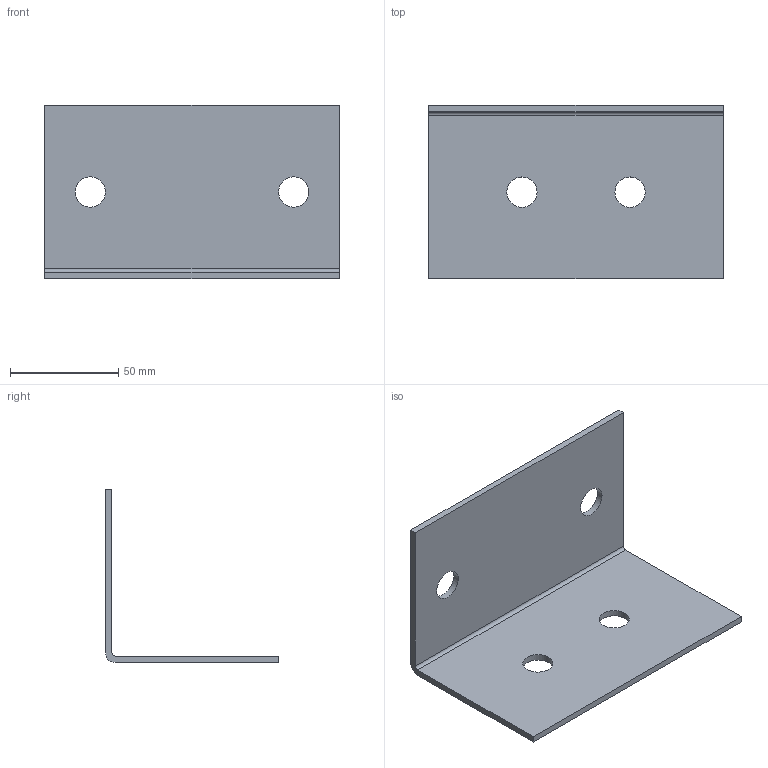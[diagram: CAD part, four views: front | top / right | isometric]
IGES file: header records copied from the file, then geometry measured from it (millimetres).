
Start section:             Generated by a .NET application based on Eyeshot              from devDept Software S.r.l. (www.devdept.com)
Global section: file name: K:\SB_Bloecke\Wandriegelanschluss_L808030\export\DSTV\NC\Files\V140_3.iges; preprocessor: Eyeshot 2024.2.342; author: GRAITEC PowerPack for Autodesk Advance Steel; date: 20241030.150058; units: millimetre
Bounding box: 136 x 80 x 80 mm (x, y, z)
Volume: 61682.9 mm3; surface area: 43400.1 mm2
Topology: 1 solids, 1 shells, 14 faces, 36 edges, 24 vertices
Faces by surface type: plane 8, cylinder 6
Full cylindrical faces by diameter (mm): 14.002 x4
